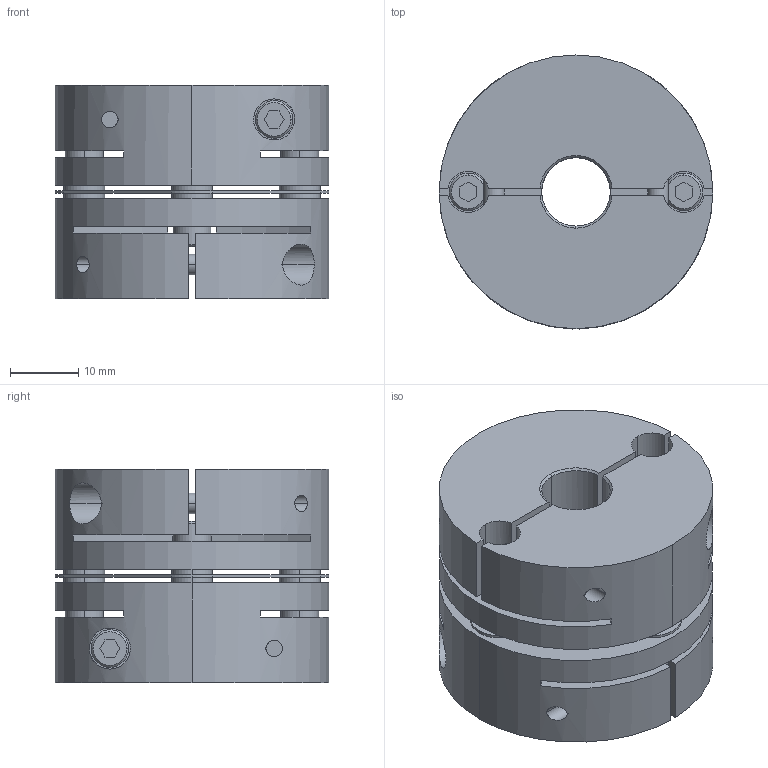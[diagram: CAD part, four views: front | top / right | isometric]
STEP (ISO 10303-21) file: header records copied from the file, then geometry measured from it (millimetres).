
FILE_DESCRIPTION((''),'2;1');
FILE_NAME('LAS-40C-10×11.stp','2011-08-11T08:47:10',(''),(''),'AutoCAD STEP 2000i','AutoCAD 2000i',', , ');
FILE_SCHEMA(('CONFIG_CONTROL_DESIGN'));
Length unit declared in the file: millimetre
Products named in the file (5): LAS-40C-10×10; 忣兜1; LA-4002-D10-1; LA-4002-D10; LAS40-ITA
Assembly tree (4 placements, depth 2):
  LAS-40C-10×10
    忣兜1
    LA-4002-D10-1
    LA-4002-D10
    LAS40-ITA
Bounding box: 40 x 40 x 31.2 mm (x, y, z)
Volume: 31409.8 mm3; surface area: 15536.3 mm2
Topology: 1 solids, 1 shells, 236 faces, 624 edges, 408 vertices
Faces by surface type: plane 112, cylinder 96, cone 28
Entity records: 8107 total; most frequent: CARTESIAN_POINT 1913, DIRECTION 1302, ORIENTED_EDGE 1248, EDGE_CURVE 624, AXIS2_PLACEMENT_3D 477, VERTEX_POINT 408, VECTOR 348, LINE 348
